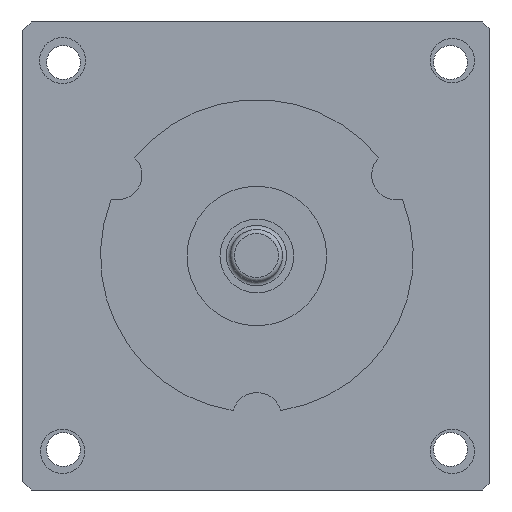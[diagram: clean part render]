
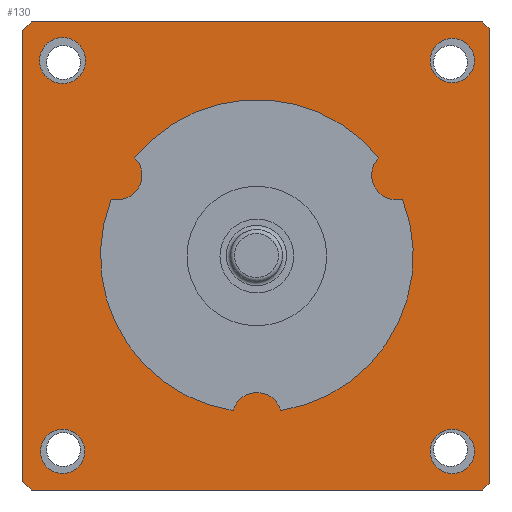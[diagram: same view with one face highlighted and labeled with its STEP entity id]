
A CAD part, front view. The second image highlights one B-rep face of the part: STEP entity #130.
In plain terms, the highlighted planar face has unit normal (0, -1, 0).
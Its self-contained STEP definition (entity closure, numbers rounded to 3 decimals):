
#130 = ADVANCED_FACE( '', ( #317, #318, #319, #320, #321, #322 ), #323, .F. );
#317 = FACE_BOUND( '', #586, .T. );
#318 = FACE_BOUND( '', #587, .T. );
#319 = FACE_BOUND( '', #588, .T. );
#320 = FACE_OUTER_BOUND( '', #589, .T. );
#321 = FACE_BOUND( '', #590, .T. );
#322 = FACE_BOUND( '', #591, .T. );
#323 = PLANE( '', #592 );
#586 = EDGE_LOOP( '', ( #933 ) );
#587 = EDGE_LOOP( '', ( #934 ) );
#588 = EDGE_LOOP( '', ( #935, #936, #937, #938, #939, #940 ) );
#589 = EDGE_LOOP( '', ( #941, #942, #943, #944, #945, #946, #947, #948 ) );
#590 = EDGE_LOOP( '', ( #949 ) );
#591 = EDGE_LOOP( '', ( #950 ) );
#592 = AXIS2_PLACEMENT_3D( '', #951, #952, #953 );
#933 = ORIENTED_EDGE( '', *, *, #1447, .T. );
#934 = ORIENTED_EDGE( '', *, *, #1470, .T. );
#935 = ORIENTED_EDGE( '', *, *, #1471, .T. );
#936 = ORIENTED_EDGE( '', *, *, #1472, .F. );
#937 = ORIENTED_EDGE( '', *, *, #1418, .T. );
#938 = ORIENTED_EDGE( '', *, *, #1402, .F. );
#939 = ORIENTED_EDGE( '', *, *, #1473, .T. );
#940 = ORIENTED_EDGE( '', *, *, #1474, .F. );
#941 = ORIENTED_EDGE( '', *, *, #1475, .F. );
#942 = ORIENTED_EDGE( '', *, *, #1428, .F. );
#943 = ORIENTED_EDGE( '', *, *, #1441, .F. );
#944 = ORIENTED_EDGE( '', *, *, #1476, .T. );
#945 = ORIENTED_EDGE( '', *, *, #1477, .F. );
#946 = ORIENTED_EDGE( '', *, *, #1478, .F. );
#947 = ORIENTED_EDGE( '', *, *, #1479, .F. );
#948 = ORIENTED_EDGE( '', *, *, #1480, .T. );
#949 = ORIENTED_EDGE( '', *, *, #1481, .T. );
#950 = ORIENTED_EDGE( '', *, *, #1482, .T. );
#951 = CARTESIAN_POINT( '', ( 0.411, 0., 685.362 ) );
#952 = DIRECTION( '', ( 0., 1., 0. ) );
#953 = DIRECTION( '', ( 0., 0., 1. ) );
#1402 = EDGE_CURVE( '', #1640, #1642, #1643, .T. );
#1418 = EDGE_CURVE( '', #1667, #1642, #1670, .T. );
#1428 = EDGE_CURVE( '', #1685, #1687, #1688, .T. );
#1441 = EDGE_CURVE( '', #1708, #1685, #1709, .T. );
#1447 = EDGE_CURVE( '', #1717, #1717, #1718, .T. );
#1470 = EDGE_CURVE( '', #1754, #1754, #1755, .T. );
#1471 = EDGE_CURVE( '', #1756, #1757, #1758, .T. );
#1472 = EDGE_CURVE( '', #1667, #1757, #1759, .T. );
#1473 = EDGE_CURVE( '', #1640, #1760, #1761, .T. );
#1474 = EDGE_CURVE( '', #1756, #1760, #1762, .T. );
#1475 = EDGE_CURVE( '', #1687, #1763, #1764, .T. );
#1476 = EDGE_CURVE( '', #1708, #1765, #1766, .T. );
#1477 = EDGE_CURVE( '', #1767, #1765, #1768, .T. );
#1478 = EDGE_CURVE( '', #1769, #1767, #1770, .T. );
#1479 = EDGE_CURVE( '', #1771, #1769, #1772, .T. );
#1480 = EDGE_CURVE( '', #1771, #1763, #1773, .T. );
#1481 = EDGE_CURVE( '', #1774, #1774, #1775, .T. );
#1482 = EDGE_CURVE( '', #1776, #1776, #1777, .T. );
#1640 = VERTEX_POINT( '', #1988 );
#1642 = VERTEX_POINT( '', #1991 );
#1643 = CIRCLE( '', #1992, 3. );
#1667 = VERTEX_POINT( '', #2023 );
#1670 = CIRCLE( '', #2027, 19.05 );
#1685 = VERTEX_POINT( '', #2048 );
#1687 = VERTEX_POINT( '', #2051 );
#1688 = LINE( '', #2052, #2053 );
#1708 = VERTEX_POINT( '', #2077 );
#1709 = LINE( '', #2078, #2079 );
#1717 = VERTEX_POINT( '', #2089 );
#1718 = CIRCLE( '', #2090, 2.7 );
#1754 = VERTEX_POINT( '', #2136 );
#1755 = CIRCLE( '', #2137, 2.8 );
#1756 = VERTEX_POINT( '', #2138 );
#1757 = VERTEX_POINT( '', #2139 );
#1758 = CIRCLE( '', #2140, 19.05 );
#1759 = CIRCLE( '', #2141, 3. );
#1760 = VERTEX_POINT( '', #2142 );
#1761 = CIRCLE( '', #2143, 19.05 );
#1762 = CIRCLE( '', #2144, 3. );
#1763 = VERTEX_POINT( '', #2145 );
#1764 = LINE( '', #2146, #2147 );
#1765 = VERTEX_POINT( '', #2148 );
#1766 = LINE( '', #2149, #2150 );
#1767 = VERTEX_POINT( '', #2151 );
#1768 = LINE( '', #2152, #2153 );
#1769 = VERTEX_POINT( '', #2154 );
#1770 = LINE( '', #2155, #2156 );
#1771 = VERTEX_POINT( '', #2157 );
#1772 = LINE( '', #2158, #2159 );
#1773 = LINE( '', #2160, #2161 );
#1774 = VERTEX_POINT( '', #2162 );
#1775 = CIRCLE( '', #2163, 2.7 );
#1776 = VERTEX_POINT( '', #2164 );
#1777 = CIRCLE( '', #2165, 2.7 );
#1988 = CARTESIAN_POINT( '', ( 14.067, 0., 725.801 ) );
#1991 = CARTESIAN_POINT( '', ( 11.168, 0., 720.797 ) );
#1992 = AXIS2_PLACEMENT_3D( '', #2537, #2538, #2539 );
#2023 = CARTESIAN_POINT( '', ( 26.02, 0., 695.033 ) );
#2027 = AXIS2_PLACEMENT_3D( '', #2560, #2561, #2562 );
#2048 = CARTESIAN_POINT( '', ( 1.411, 0., 685.362 ) );
#2051 = CARTESIAN_POINT( '', ( 0.411, 0., 686.362 ) );
#2052 = CARTESIAN_POINT( '', ( 1.411, 0., 685.362 ) );
#2053 = VECTOR( '', #2570, 1000. );
#2077 = CARTESIAN_POINT( '', ( 56.411, 0., 685.362 ) );
#2078 = CARTESIAN_POINT( '', ( 57.411, 0., 685.362 ) );
#2079 = VECTOR( '', #2590, 1000. );
#2089 = CARTESIAN_POINT( '', ( 55.411, 0., 690.062 ) );
#2090 = AXIS2_PLACEMENT_3D( '', #2596, #2597, #2598 );
#2136 = CARTESIAN_POINT( '', ( 8.051, 0., 737.662 ) );
#2137 = AXIS2_PLACEMENT_3D( '', #2630, #2631, #2632 );
#2138 = CARTESIAN_POINT( '', ( 46.654, 0., 720.797 ) );
#2139 = CARTESIAN_POINT( '', ( 31.802, 0., 695.033 ) );
#2140 = AXIS2_PLACEMENT_3D( '', #2633, #2634, #2635 );
#2141 = AXIS2_PLACEMENT_3D( '', #2636, #2637, #2638 );
#2142 = CARTESIAN_POINT( '', ( 43.756, 0., 725.801 ) );
#2143 = AXIS2_PLACEMENT_3D( '', #2639, #2640, #2641 );
#2144 = AXIS2_PLACEMENT_3D( '', #2642, #2643, #2644 );
#2145 = CARTESIAN_POINT( '', ( 0.411, 0., 741.362 ) );
#2146 = CARTESIAN_POINT( '', ( 0.411, 0., 685.362 ) );
#2147 = VECTOR( '', #2645, 1000. );
#2148 = CARTESIAN_POINT( '', ( 57.201, 0., 686.152 ) );
#2149 = CARTESIAN_POINT( '', ( 56.411, 0., 685.362 ) );
#2150 = VECTOR( '', #2646, 1000. );
#2151 = CARTESIAN_POINT( '', ( 57.201, 0., 741.572 ) );
#2152 = CARTESIAN_POINT( '', ( 57.201, 0., 742.362 ) );
#2153 = VECTOR( '', #2647, 1000. );
#2154 = CARTESIAN_POINT( '', ( 56.411, 0., 742.362 ) );
#2155 = CARTESIAN_POINT( '', ( 56.411, 0., 742.362 ) );
#2156 = VECTOR( '', #2648, 1000. );
#2157 = CARTESIAN_POINT( '', ( 1.411, 0., 742.362 ) );
#2158 = CARTESIAN_POINT( '', ( 0.411, 0., 742.362 ) );
#2159 = VECTOR( '', #2649, 1000. );
#2160 = CARTESIAN_POINT( '', ( 0.411, 0., 741.362 ) );
#2161 = VECTOR( '', #2650, 1000. );
#2162 = CARTESIAN_POINT( '', ( 55.411, 0., 737.662 ) );
#2163 = AXIS2_PLACEMENT_3D( '', #2651, #2652, #2653 );
#2164 = CARTESIAN_POINT( '', ( 7.951, 0., 690.062 ) );
#2165 = AXIS2_PLACEMENT_3D( '', #2654, #2655, #2656 );
#2537 = CARTESIAN_POINT( '', ( 11.925, 0., 723.7 ) );
#2538 = DIRECTION( '', ( 0., 1., 0. ) );
#2539 = DIRECTION( '', ( 1., 0., 0. ) );
#2560 = CARTESIAN_POINT( '', ( 28.911, 0., 713.862 ) );
#2561 = DIRECTION( '', ( 0., 1., 0. ) );
#2562 = DIRECTION( '', ( 0., 0., 1. ) );
#2570 = DIRECTION( '', ( -0.707, 0., 0.707 ) );
#2590 = DIRECTION( '', ( -1., 0., 0. ) );
#2596 = CARTESIAN_POINT( '', ( 52.711, 0., 690.062 ) );
#2597 = DIRECTION( '', ( 0., 1., 0. ) );
#2598 = DIRECTION( '', ( 1., 0., 0. ) );
#2630 = CARTESIAN_POINT( '', ( 5.251, 0., 737.662 ) );
#2631 = DIRECTION( '', ( 0., 1., 0. ) );
#2632 = DIRECTION( '', ( 1., 0., 0. ) );
#2633 = CARTESIAN_POINT( '', ( 28.911, 0., 713.862 ) );
#2634 = DIRECTION( '', ( 0., 1., 0. ) );
#2635 = DIRECTION( '', ( 0., 0., 1. ) );
#2636 = CARTESIAN_POINT( '', ( 28.911, 0., 694.232 ) );
#2637 = DIRECTION( '', ( 0., 1., 0. ) );
#2638 = DIRECTION( '', ( 1., 0., 0. ) );
#2639 = CARTESIAN_POINT( '', ( 28.911, 0., 713.862 ) );
#2640 = DIRECTION( '', ( 0., 1., 0. ) );
#2641 = DIRECTION( '', ( 0., 0., 1. ) );
#2642 = CARTESIAN_POINT( '', ( 45.898, 0., 723.7 ) );
#2643 = DIRECTION( '', ( 0., 1., 0. ) );
#2644 = DIRECTION( '', ( 1., 0., 0. ) );
#2645 = DIRECTION( '', ( 0., 0., 1. ) );
#2646 = DIRECTION( '', ( 0.707, 0., 0.707 ) );
#2647 = DIRECTION( '', ( 0., 0., -1. ) );
#2648 = DIRECTION( '', ( 0.707, 0., -0.707 ) );
#2649 = DIRECTION( '', ( 1., 0., 0. ) );
#2650 = DIRECTION( '', ( -0.707, 0., -0.707 ) );
#2651 = CARTESIAN_POINT( '', ( 52.711, 0., 737.662 ) );
#2652 = DIRECTION( '', ( 0., 1., 0. ) );
#2653 = DIRECTION( '', ( 1., 0., 0. ) );
#2654 = CARTESIAN_POINT( '', ( 5.251, 0., 690.062 ) );
#2655 = DIRECTION( '', ( 0., 1., 0. ) );
#2656 = DIRECTION( '', ( 1., 0., 0. ) );
